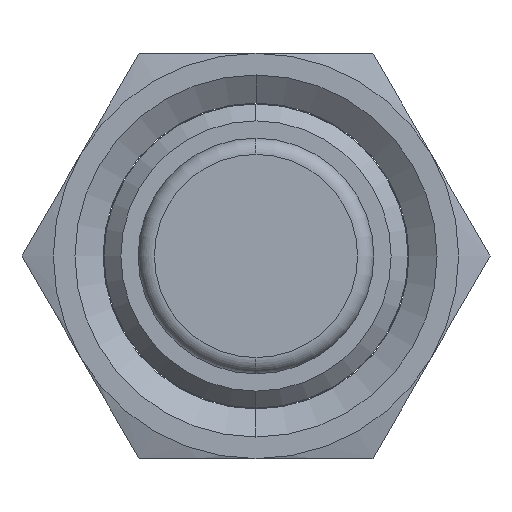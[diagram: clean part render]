
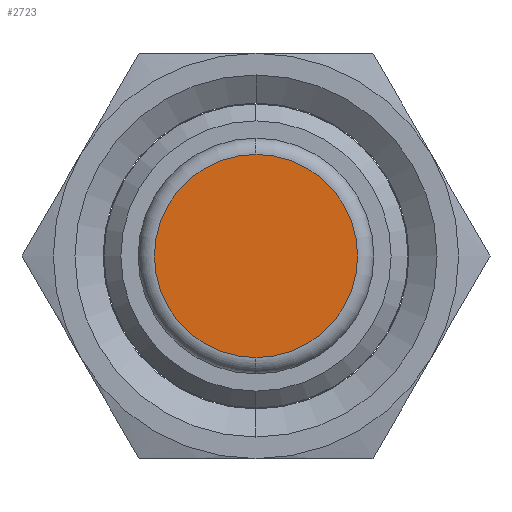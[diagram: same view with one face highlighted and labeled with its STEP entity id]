
A CAD part, left-side view. The second image highlights one B-rep face of the part: STEP entity #2723.
In plain terms, the highlighted planar face has unit normal (-1, 0, 0).
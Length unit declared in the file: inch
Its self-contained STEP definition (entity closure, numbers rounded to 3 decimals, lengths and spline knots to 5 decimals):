
#27 = VERTEX_POINT ( 'NONE', #772 ) ;
#242 = EDGE_LOOP ( 'NONE', ( #645, #646 ) ) ;
#282 = VERTEX_POINT ( 'NONE', #906 ) ;
#645 = ORIENTED_EDGE ( 'NONE', *, *, #2954, .T. ) ;
#646 = ORIENTED_EDGE ( 'NONE', *, *, #2956, .T. ) ;
#772 = CARTESIAN_POINT ( 'NONE',  ( -2.453, 0., -0.188 ) ) ;
#906 = CARTESIAN_POINT ( 'NONE',  ( -2.453, 0., 0.188 ) ) ;
#1154 = CARTESIAN_POINT ( 'NONE',  ( -2.453, 0., 0. ) ) ;
#1155 = FACE_OUTER_BOUND ( 'NONE', #242, .T. ) ;
#1157 = PLANE ( 'NONE',  #2200 ) ;
#1160 = DIRECTION ( 'NONE',  ( -1., 0., 0. ) ) ;
#1161 = DIRECTION ( 'NONE',  ( 0., 0., -1. ) ) ;
#1970 = CARTESIAN_POINT ( 'NONE',  ( -2.453, 0., 0. ) ) ;
#1971 = DIRECTION ( 'NONE',  ( -1., 0., 0. ) ) ;
#1972 = DIRECTION ( 'NONE',  ( 0., 0., -1. ) ) ;
#1976 = CARTESIAN_POINT ( 'NONE',  ( -2.453, 0., 0. ) ) ;
#1977 = DIRECTION ( 'NONE',  ( -1., 0., 0. ) ) ;
#1978 = DIRECTION ( 'NONE',  ( 0., 0., -1. ) ) ;
#2200 = AXIS2_PLACEMENT_3D ( 'NONE', #1154, #1160, #1161 ) ;
#2532 = CIRCLE ( 'NONE', #2536, 0.188 ) ;
#2535 = CIRCLE ( 'NONE', #2540, 0.188 ) ;
#2536 = AXIS2_PLACEMENT_3D ( 'NONE', #1970, #1971, #1972 ) ;
#2540 = AXIS2_PLACEMENT_3D ( 'NONE', #1976, #1977, #1978 ) ;
#2723 = ADVANCED_FACE ( 'NONE', ( #1155 ), #1157, .T. ) ;
#2954 = EDGE_CURVE ( 'NONE', #27, #282, #2532, .T. ) ;
#2956 = EDGE_CURVE ( 'NONE', #282, #27, #2535, .T. ) ;
